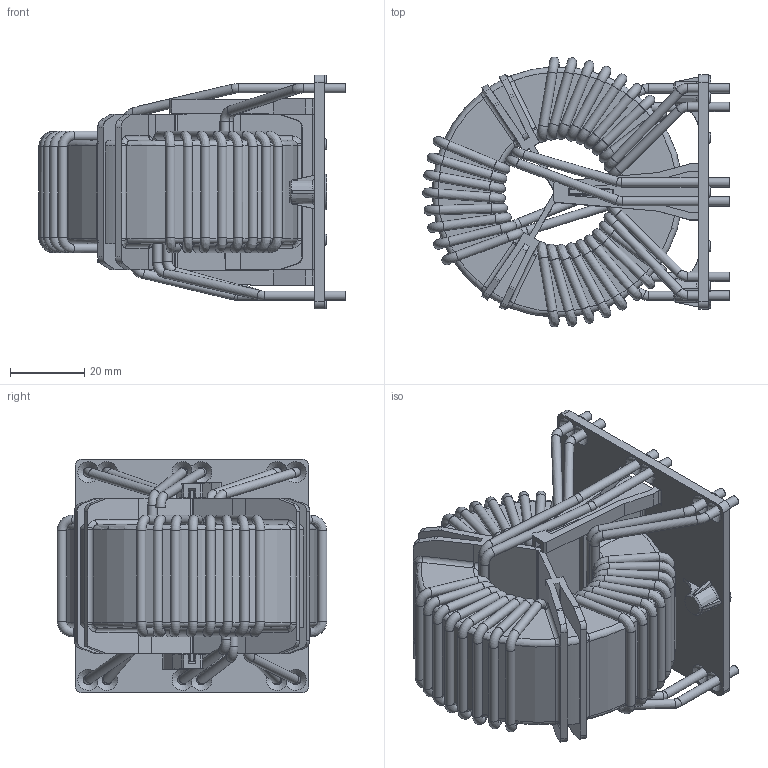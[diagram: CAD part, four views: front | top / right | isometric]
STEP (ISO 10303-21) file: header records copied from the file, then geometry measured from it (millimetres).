
FILE_DESCRIPTION((''),'2;1');
FILE_NAME('K:\Development\Projects\RB\Angel_standard choke series 2011\70_Realization_Revision\702_MechanicalDesign\RB8532-50-0M3 for customer_包覆面提取_1.stp','2013-04-11T11:10:43',('Bin.Fan'),(''),'Autodesk Inventor 2010','Autodesk Inventor 2010','');
FILE_SCHEMA(('AUTOMOTIVE_DESIGN { 1 0 10303 214 1 1 1 1 }'));
Length unit declared in the file: millimetre
Products named in the file (1): RB8532-50-0M3  for customer_包覆面提取_1
Bounding box: 82.55 x 72.67 x 63 mm (x, y, z)
Surface area: 56753.4 mm2 (no closed solid volume)
Topology: 0 solids, 1 shells, 1105 faces, 3235 edges, 1993 vertices
Faces by surface type: plane 405, cylinder 278, bspline 196, torus 192, cone 34
Full cylindrical faces by diameter (mm): 2.5 x79, 2.7 x12, 3 x10, 9.6 x1
Entity records: 43773 total; most frequent: CARTESIAN_POINT 16744, ORIENTED_EDGE 5730, DIRECTION 4824, EDGE_CURVE 2865, VERTEX_POINT 1833, AXIS2_PLACEMENT_3D 1819, EDGE_LOOP 1346, VECTOR 1186
